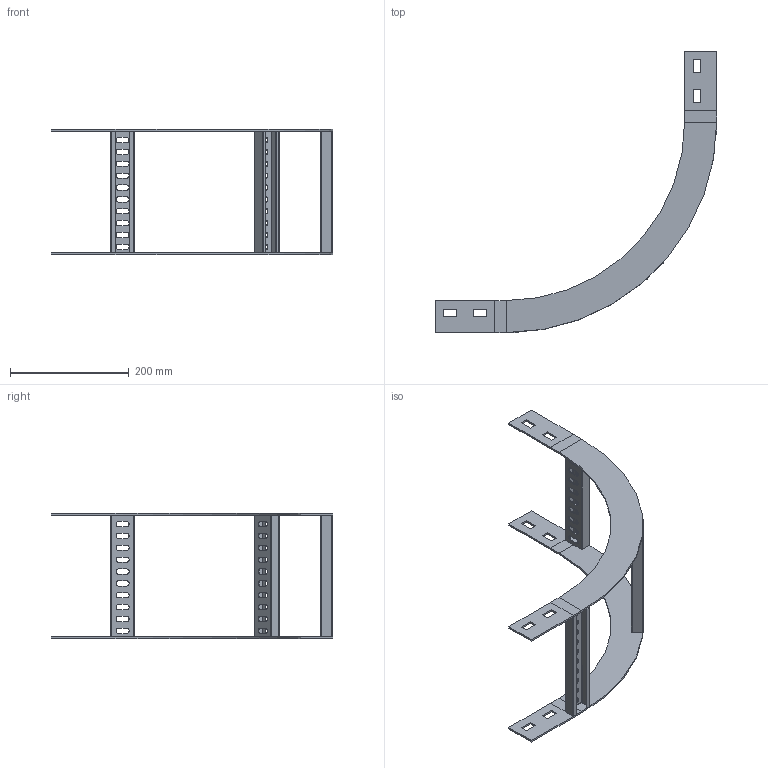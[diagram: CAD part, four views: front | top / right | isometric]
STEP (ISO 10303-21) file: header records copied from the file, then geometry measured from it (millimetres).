
FILE_DESCRIPTION(/* description */ ('','CAx-IF Rec.Pracs.---Representation and Presentation of Product Manufacturing Information (PMI)---4.0---2014-10-13'),/* implementation_level */ '2;1');
FILE_NAME(/* name */ 'Eurostrut_EIR60-200-90-300_Inside Riser for Cable Ladder ECL.step',/* time_stamp */ '2026-09-03T10:03:21+02:00',/* author */ (''),/* organization */ (''),/* preprocessor_version */ 'ST-DEVELOPER v20.1',/* originating_system */ 'Autodesk Revit 2027 27.2.0.39',/* authorisation */ '');
FILE_SCHEMA (('AP242_MANAGED_MODEL_BASED_3D_ENGINEERING_MIM_LF { 1 0 10303 442 2 1 4 }'));
Length unit declared in the file: millimetre
Products named in the file (8): TopLevelAssembly; Sweep; Extrusion; Extrusion_1; Extrusion_2; Extrusion_3; Eurostrut_Cable Ladder_Rung_V2 Vertical_Array EIR_Slotted; Eurostrut_Cable Ladder_Accessory End_54-94-142
Assembly tree (10 placements, depth 2):
  TopLevelAssembly
    Sweep
    Extrusion
    Extrusion_1
    Extrusion_2
    Extrusion_3
    Eurostrut_Cable Ladder_Rung_V2 Vertical_Array EIR_Slotted
    Eurostrut_Cable Ladder_Accessory End_54-94-142  x4
Bounding box: 474 x 474 x 211 mm (x, y, z)
Volume: 310634.4 mm3; surface area: 274606.3 mm2
Topology: 13 solids, 13 shells, 266 faces, 720 edges, 480 vertices
Faces by surface type: plane 190, bspline 60, cylinder 16
Entity records: 9082 total; most frequent: CARTESIAN_POINT 3122, ORIENTED_EDGE 1224, DIRECTION 1128, EDGE_CURVE 612, LINE 460, VECTOR 460, VERTEX_POINT 408, AXIS2_PLACEMENT_3D 334
